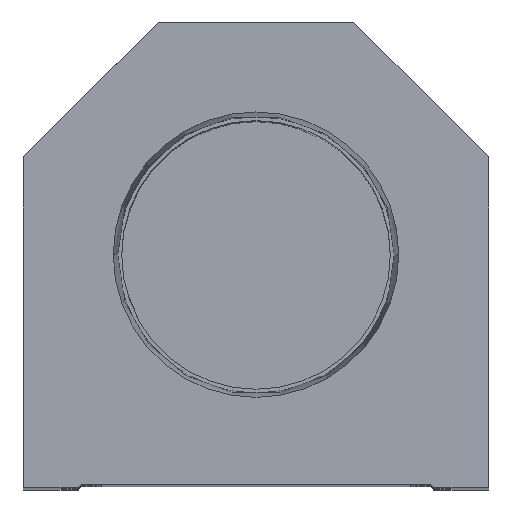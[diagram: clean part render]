
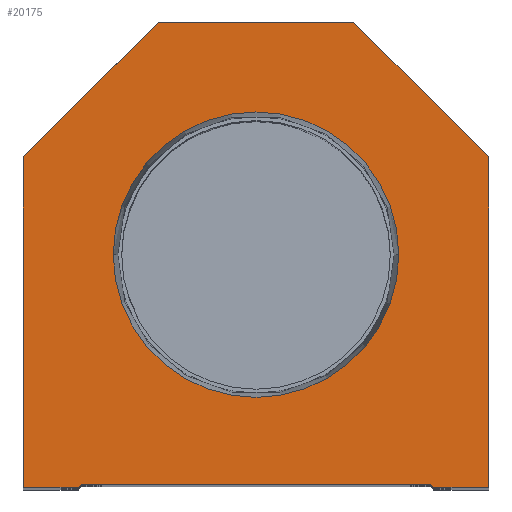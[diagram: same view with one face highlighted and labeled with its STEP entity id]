
A CAD part, top view. The second image highlights one B-rep face of the part: STEP entity #20175.
In plain terms, the highlighted planar face has unit normal (0, 0, 1).
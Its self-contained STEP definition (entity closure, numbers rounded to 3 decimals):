
#107 = CARTESIAN_POINT ( 'NONE',  ( 23.374, 38.1, 0. ) ) ;
#395 = EDGE_CURVE ( 'NONE', #13284, #12717, #667, .T. ) ;
#667 = LINE ( 'NONE', #10571, #13776 ) ;
#1048 = CARTESIAN_POINT ( 'NONE',  ( -29.1, 0., 0. ) ) ;
#1086 = CARTESIAN_POINT ( 'NONE',  ( 16., 76.2, 0. ) ) ;
#1166 = ORIENTED_EDGE ( 'NONE', *, *, #20217, .T. ) ;
#1377 = VECTOR ( 'NONE', #5005, 1000. ) ;
#1593 = EDGE_CURVE ( 'NONE', #6223, #13910, #6326, .T. ) ;
#1862 = CARTESIAN_POINT ( 'NONE',  ( 0., 38.1, 0. ) ) ;
#1962 = DIRECTION ( 'NONE',  ( 0., 0., 1. ) ) ;
#2189 = DIRECTION ( 'NONE',  ( 0., 0., 1. ) ) ;
#2202 = ORIENTED_EDGE ( 'NONE', *, *, #12582, .F. ) ;
#2300 = FACE_BOUND ( 'NONE', #4503, .T. ) ;
#2486 = VERTEX_POINT ( 'NONE', #4950 ) ;
#2658 = VECTOR ( 'NONE', #14599, 1000. ) ;
#2734 = CARTESIAN_POINT ( 'NONE',  ( -28.6, 0.5, 0. ) ) ;
#3231 = VECTOR ( 'NONE', #18401, 1000. ) ;
#3270 = VECTOR ( 'NONE', #16087, 1000. ) ;
#4175 = DIRECTION ( 'NONE',  ( -1., 0., 0. ) ) ;
#4248 = EDGE_CURVE ( 'NONE', #10700, #8482, #10721, .T. ) ;
#4503 = EDGE_LOOP ( 'NONE', ( #4879, #2202 ) ) ;
#4602 = CARTESIAN_POINT ( 'NONE',  ( 38.1, 0., 0. ) ) ;
#4685 = ORIENTED_EDGE ( 'NONE', *, *, #15290, .T. ) ;
#4879 = ORIENTED_EDGE ( 'NONE', *, *, #1593, .F. ) ;
#4929 = CARTESIAN_POINT ( 'NONE',  ( -38.1, 54.1, 0. ) ) ;
#4942 = LINE ( 'NONE', #10186, #20150 ) ;
#4950 = CARTESIAN_POINT ( 'NONE',  ( 38.1, 0., 0. ) ) ;
#5005 = DIRECTION ( 'NONE',  ( -0.707, 0.707, 0. ) ) ;
#5381 = CARTESIAN_POINT ( 'NONE',  ( -38.1, 54.1, 0. ) ) ;
#5410 = ORIENTED_EDGE ( 'NONE', *, *, #9550, .T. ) ;
#5655 = AXIS2_PLACEMENT_3D ( 'NONE', #1862, #1962, #10326 ) ;
#6019 = DIRECTION ( 'NONE',  ( 1., 0., 0. ) ) ;
#6223 = VERTEX_POINT ( 'NONE', #107 ) ;
#6326 = CIRCLE ( 'NONE', #5655, 23.374 ) ;
#6434 = EDGE_CURVE ( 'NONE', #2486, #8014, #19374, .T. ) ;
#6645 = DIRECTION ( 'NONE',  ( 0., -1., 0. ) ) ;
#6710 = LINE ( 'NONE', #19801, #1377 ) ;
#6772 = ORIENTED_EDGE ( 'NONE', *, *, #6434, .T. ) ;
#6885 = EDGE_CURVE ( 'NONE', #13719, #18144, #16670, .T. ) ;
#7433 = FACE_OUTER_BOUND ( 'NONE', #17280, .T. ) ;
#7744 = LINE ( 'NONE', #2734, #3270 ) ;
#7997 = CARTESIAN_POINT ( 'NONE',  ( 28.6, 0., 0. ) ) ;
#8014 = VERTEX_POINT ( 'NONE', #20164 ) ;
#8032 = CARTESIAN_POINT ( 'NONE',  ( -14.55, 14.55, 0. ) ) ;
#8308 = CARTESIAN_POINT ( 'NONE',  ( 28.6, 0.5, 0. ) ) ;
#8482 = VERTEX_POINT ( 'NONE', #12725 ) ;
#8943 = PLANE ( 'NONE',  #19110 ) ;
#8999 = CARTESIAN_POINT ( 'NONE',  ( 16., 76.2, 0. ) ) ;
#9208 = LINE ( 'NONE', #7997, #2658 ) ;
#9550 = EDGE_CURVE ( 'NONE', #12717, #2486, #9208, .T. ) ;
#9635 = CARTESIAN_POINT ( 'NONE',  ( -28.6, 0.5, 0. ) ) ;
#10073 = DIRECTION ( 'NONE',  ( 0.707, 0.707, 0. ) ) ;
#10165 = ORIENTED_EDGE ( 'NONE', *, *, #6885, .T. ) ;
#10186 = CARTESIAN_POINT ( 'NONE',  ( -38.1, 0., 0. ) ) ;
#10326 = DIRECTION ( 'NONE',  ( 1., 0., 0. ) ) ;
#10568 = DIRECTION ( 'NONE',  ( 1., 0., 0. ) ) ;
#10571 = CARTESIAN_POINT ( 'NONE',  ( 14.55, 14.55, 0. ) ) ;
#10700 = VERTEX_POINT ( 'NONE', #1086 ) ;
#10721 = LINE ( 'NONE', #8999, #12758 ) ;
#10812 = CARTESIAN_POINT ( 'NONE',  ( -23.374, 38.1, 0. ) ) ;
#11272 = LINE ( 'NONE', #4929, #17257 ) ;
#12582 = EDGE_CURVE ( 'NONE', #13910, #6223, #19595, .T. ) ;
#12717 = VERTEX_POINT ( 'NONE', #18759 ) ;
#12722 = ORIENTED_EDGE ( 'NONE', *, *, #14740, .T. ) ;
#12725 = CARTESIAN_POINT ( 'NONE',  ( -16., 76.2, 0. ) ) ;
#12758 = VECTOR ( 'NONE', #4175, 1000. ) ;
#12879 = DIRECTION ( 'NONE',  ( 0., 1., 0. ) ) ;
#13284 = VERTEX_POINT ( 'NONE', #8308 ) ;
#13317 = ORIENTED_EDGE ( 'NONE', *, *, #395, .T. ) ;
#13719 = VERTEX_POINT ( 'NONE', #19069 ) ;
#13776 = VECTOR ( 'NONE', #18799, 1000. ) ;
#13910 = VERTEX_POINT ( 'NONE', #10812 ) ;
#14021 = CARTESIAN_POINT ( 'NONE',  ( 0., 0., 0. ) ) ;
#14042 = ORIENTED_EDGE ( 'NONE', *, *, #20366, .T. ) ;
#14419 = DIRECTION ( 'NONE',  ( -0.707, -0.707, 0. ) ) ;
#14599 = DIRECTION ( 'NONE',  ( 1., 0., 0. ) ) ;
#14740 = EDGE_CURVE ( 'NONE', #8014, #10700, #6710, .T. ) ;
#15109 = AXIS2_PLACEMENT_3D ( 'NONE', #15968, #17901, #6019 ) ;
#15290 = EDGE_CURVE ( 'NONE', #8482, #16940, #11272, .T. ) ;
#15765 = VERTEX_POINT ( 'NONE', #9635 ) ;
#15968 = CARTESIAN_POINT ( 'NONE',  ( 0., 38.1, 0. ) ) ;
#16087 = DIRECTION ( 'NONE',  ( 1., 0., 0. ) ) ;
#16365 = EDGE_CURVE ( 'NONE', #18144, #15765, #20704, .T. ) ;
#16670 = LINE ( 'NONE', #20415, #3231 ) ;
#16889 = ORIENTED_EDGE ( 'NONE', *, *, #16365, .T. ) ;
#16940 = VERTEX_POINT ( 'NONE', #5381 ) ;
#17257 = VECTOR ( 'NONE', #14419, 1000. ) ;
#17280 = EDGE_LOOP ( 'NONE', ( #10165, #16889, #1166, #13317, #5410, #6772, #12722, #19671, #4685, #14042 ) ) ;
#17287 = VECTOR ( 'NONE', #10073, 1000. ) ;
#17901 = DIRECTION ( 'NONE',  ( 0., 0., 1. ) ) ;
#18144 = VERTEX_POINT ( 'NONE', #1048 ) ;
#18401 = DIRECTION ( 'NONE',  ( 1., 0., 0. ) ) ;
#18759 = CARTESIAN_POINT ( 'NONE',  ( 29.1, 0., 0. ) ) ;
#18799 = DIRECTION ( 'NONE',  ( 0.707, -0.707, 0. ) ) ;
#19001 = VECTOR ( 'NONE', #12879, 1000. ) ;
#19069 = CARTESIAN_POINT ( 'NONE',  ( -38.1, 0., 0. ) ) ;
#19110 = AXIS2_PLACEMENT_3D ( 'NONE', #14021, #2189, #10568 ) ;
#19374 = LINE ( 'NONE', #4602, #19001 ) ;
#19595 = CIRCLE ( 'NONE', #15109, 23.374 ) ;
#19671 = ORIENTED_EDGE ( 'NONE', *, *, #4248, .T. ) ;
#19801 = CARTESIAN_POINT ( 'NONE',  ( 38.1, 54.1, 0. ) ) ;
#20150 = VECTOR ( 'NONE', #6645, 1000. ) ;
#20164 = CARTESIAN_POINT ( 'NONE',  ( 38.1, 54.1, 0. ) ) ;
#20175 = ADVANCED_FACE ( 'NONE', ( #2300, #7433 ), #8943, .T. ) ;
#20217 = EDGE_CURVE ( 'NONE', #15765, #13284, #7744, .T. ) ;
#20366 = EDGE_CURVE ( 'NONE', #16940, #13719, #4942, .T. ) ;
#20415 = CARTESIAN_POINT ( 'NONE',  ( -28.6, 0., 0. ) ) ;
#20704 = LINE ( 'NONE', #8032, #17287 ) ;
